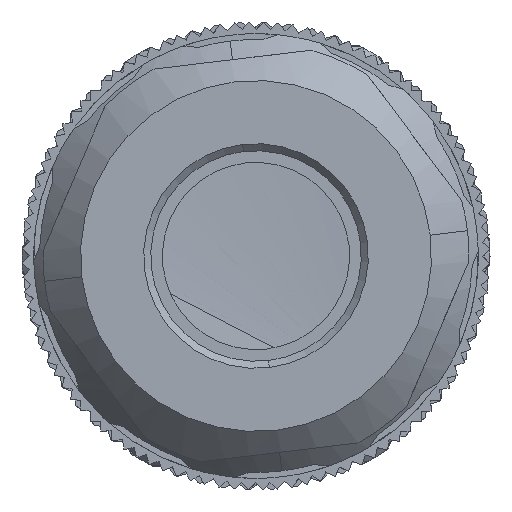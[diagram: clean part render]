
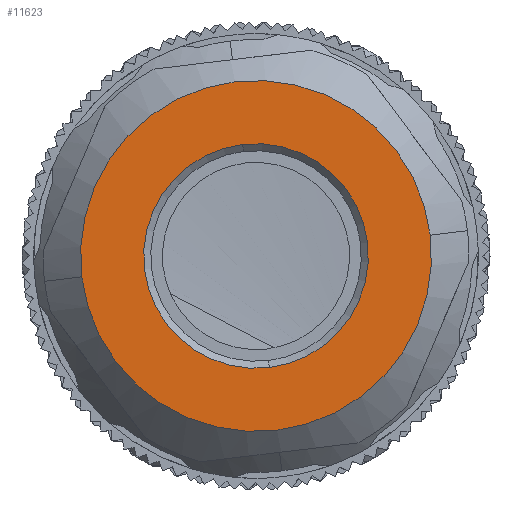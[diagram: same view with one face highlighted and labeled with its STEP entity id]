
A CAD part, left-side view. The second image highlights one B-rep face of the part: STEP entity #11623.
In plain terms, the highlighted planar face has unit normal (-1, 0, 0).
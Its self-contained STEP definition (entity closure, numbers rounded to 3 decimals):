
#372 = CARTESIAN_POINT ( 'NONE',  ( -30.839, 0.571, 4.766 ) ) ;
#713 = AXIS2_PLACEMENT_3D ( 'NONE', #24481, #43285, #5532 ) ;
#1131 = CARTESIAN_POINT ( 'NONE',  ( -30.839, 0., 0. ) ) ;
#1736 = CARTESIAN_POINT ( 'NONE',  ( -30.839, 0., 0. ) ) ;
#1893 = DIRECTION ( 'NONE',  ( -1., 0., 0. ) ) ;
#2258 = VERTEX_POINT ( 'NONE', #2409 ) ;
#2409 = CARTESIAN_POINT ( 'NONE',  ( -30.839, -7.447, 0.892 ) ) ;
#2410 = VERTEX_POINT ( 'NONE', #33720 ) ;
#3076 = EDGE_LOOP ( 'NONE', ( #17032, #27901 ) ) ;
#4391 = FACE_BOUND ( 'NONE', #3076, .T. ) ;
#5532 = DIRECTION ( 'NONE',  ( 0., -0.993, 0.119 ) ) ;
#9460 = AXIS2_PLACEMENT_3D ( 'NONE', #44764, #38500, #34541 ) ;
#11623 = ADVANCED_FACE ( 'NONE', ( #47867, #4391 ), #14717, .F. ) ;
#11865 = CIRCLE ( 'NONE', #48658, 7.5 ) ;
#12172 = CARTESIAN_POINT ( 'NONE',  ( -30.839, 0., 0. ) ) ;
#12334 = DIRECTION ( 'NONE',  ( -1., 0., 0. ) ) ;
#14717 = PLANE ( 'NONE',  #9460 ) ;
#15291 = VERTEX_POINT ( 'NONE', #45419 ) ;
#16097 = DIRECTION ( 'NONE',  ( 0., 0.119, 0.993 ) ) ;
#16879 = EDGE_CURVE ( 'NONE', #2258, #15291, #42296, .T. ) ;
#17032 = ORIENTED_EDGE ( 'NONE', *, *, #46122, .F. ) ;
#17233 = ORIENTED_EDGE ( 'NONE', *, *, #42907, .F. ) ;
#17561 = EDGE_LOOP ( 'NONE', ( #36443, #17233 ) ) ;
#22235 = VERTEX_POINT ( 'NONE', #372 ) ;
#24023 = DIRECTION ( 'NONE',  ( 0., -0.993, 0.119 ) ) ;
#24481 = CARTESIAN_POINT ( 'NONE',  ( -30.839, 0., 0. ) ) ;
#27824 = EDGE_CURVE ( 'NONE', #2410, #22235, #40115, .T. ) ;
#27901 = ORIENTED_EDGE ( 'NONE', *, *, #27824, .F. ) ;
#33720 = CARTESIAN_POINT ( 'NONE',  ( -30.839, -0.571, -4.766 ) ) ;
#34541 = DIRECTION ( 'NONE',  ( 0., -0.119, -0.993 ) ) ;
#35561 = CIRCLE ( 'NONE', #39881, 4.8 ) ;
#35855 = DIRECTION ( 'NONE',  ( 0., 0.119, 0.993 ) ) ;
#36443 = ORIENTED_EDGE ( 'NONE', *, *, #16879, .F. ) ;
#38500 = DIRECTION ( 'NONE',  ( 1., 0., 0. ) ) ;
#38874 = DIRECTION ( 'NONE',  ( 1., 0., 0. ) ) ;
#39881 = AXIS2_PLACEMENT_3D ( 'NONE', #12172, #12334, #16097 ) ;
#40115 = CIRCLE ( 'NONE', #40757, 4.8 ) ;
#40757 = AXIS2_PLACEMENT_3D ( 'NONE', #1736, #1893, #35855 ) ;
#42296 = CIRCLE ( 'NONE', #713, 7.5 ) ;
#42907 = EDGE_CURVE ( 'NONE', #15291, #2258, #11865, .T. ) ;
#43285 = DIRECTION ( 'NONE',  ( 1., 0., 0. ) ) ;
#44764 = CARTESIAN_POINT ( 'NONE',  ( -30.839, 0., 0. ) ) ;
#45419 = CARTESIAN_POINT ( 'NONE',  ( -30.839, 7.447, -0.892 ) ) ;
#46122 = EDGE_CURVE ( 'NONE', #22235, #2410, #35561, .T. ) ;
#47867 = FACE_OUTER_BOUND ( 'NONE', #17561, .T. ) ;
#48658 = AXIS2_PLACEMENT_3D ( 'NONE', #1131, #38874, #24023 ) ;
